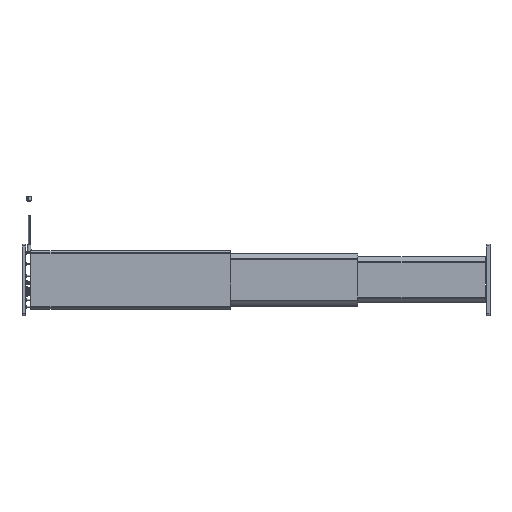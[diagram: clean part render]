
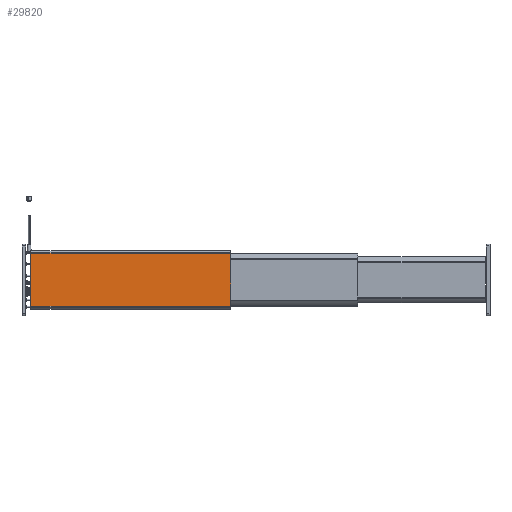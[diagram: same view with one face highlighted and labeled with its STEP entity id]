
A CAD part, left-side view. The second image highlights one B-rep face of the part: STEP entity #29820.
In plain terms, the highlighted planar face has unit normal (-1, 0, 0).
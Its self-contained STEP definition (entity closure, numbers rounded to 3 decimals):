
#2334=DIRECTION('',(0.,0.,1.));
#2335=VECTOR('',#2334,148.208);
#2336=CARTESIAN_POINT('',(-81.5,719.,-74.104));
#2337=LINE('',#2336,#2335);
#2520=DIRECTION('',(0.,-1.,0.));
#2521=VECTOR('',#2520,559.);
#2522=CARTESIAN_POINT('',(-81.5,1278.,-74.104));
#2523=LINE('',#2522,#2521);
#2524=DIRECTION('',(0.,0.,1.));
#2525=VECTOR('',#2524,148.207);
#2526=CARTESIAN_POINT('',(-81.5,1278.,-74.104));
#2527=LINE('',#2526,#2525);
#2528=DIRECTION('',(0.,1.,0.));
#2529=VECTOR('',#2528,559.);
#2530=CARTESIAN_POINT('',(-81.5,719.,74.104));
#2531=LINE('',#2530,#2529);
#26215=CARTESIAN_POINT('',(-81.5,1278.,74.104));
#26216=VERTEX_POINT('',#26215);
#26217=CARTESIAN_POINT('',(-81.5,1278.,-74.104));
#26218=VERTEX_POINT('',#26217);
#26577=CARTESIAN_POINT('',(-81.5,719.,-74.105));
#26578=VERTEX_POINT('',#26577);
#26579=CARTESIAN_POINT('',(-81.5,719.,74.104));
#26580=VERTEX_POINT('',#26579);
#29808=CARTESIAN_POINT('',(-81.5,719.,-74.104));
#29809=DIRECTION('',(-1.,0.,0.));
#29810=DIRECTION('',(0.,0.,1.));
#29811=AXIS2_PLACEMENT_3D('',#29808,#29809,#29810);
#29812=PLANE('',#29811);
#29813=ORIENTED_EDGE('',*,*,#29538,.F.);
#29814=ORIENTED_EDGE('',*,*,#29796,.F.);
#29815=ORIENTED_EDGE('',*,*,#29082,.T.);
#29817=ORIENTED_EDGE('',*,*,#29816,.F.);
#29818=EDGE_LOOP('',(#29813,#29814,#29815,#29817));
#29819=FACE_OUTER_BOUND('',#29818,.F.);
#29082=EDGE_CURVE('',#26218,#26216,#2527,.T.);
#29538=EDGE_CURVE('',#26578,#26580,#2337,.T.);
#29796=EDGE_CURVE('',#26218,#26578,#2523,.T.);
#29816=EDGE_CURVE('',#26580,#26216,#2531,.T.);
#29820=ADVANCED_FACE('',(#29819),#29812,.T.);
